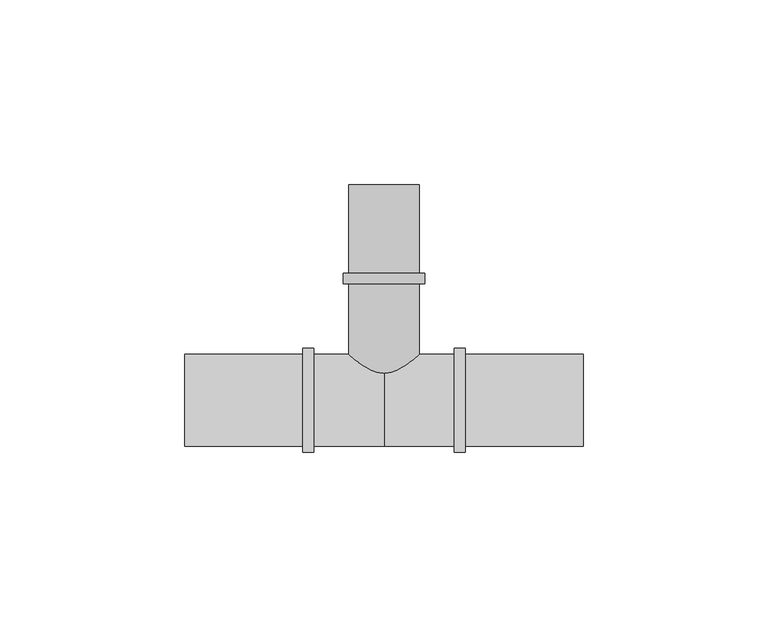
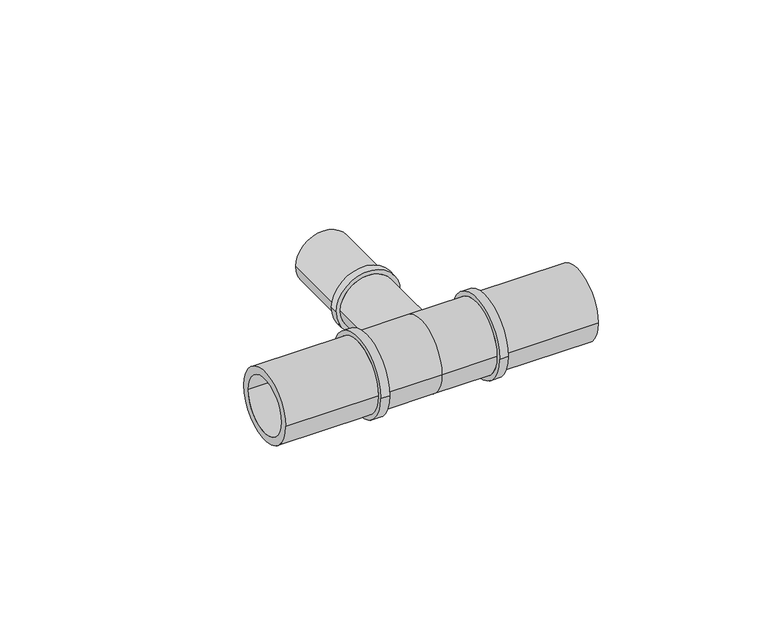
"""IFC4 building model written with IfcOpenShell, lengths in millimetres: pipe fitting geometry, FASTLOC_T-piece_LX : FSL T-Piece LX PL."""

from ifc_helpers import new_model, si_unit, frame, origin, place, context, project, spatial, polyline, circle_curve, source, transform, mapped, element, save
from ifc_brep_helpers import plane_surface, cylinder_surface, revolved_surface, advanced_brep


def pipe_fitting_4480fcef(model_context):
    return source(origin(), model_context, "Body", "AdvancedBrep", [
        advanced_brep(
        [(7.35, 58.4, 0.0), (-7.35, 58.4, 0.0), (-7.35, 0.0, 0.0), (7.35, 0.0, 0.0), (9.6, 0.0, 0.0), (-9.6, 0.0, 0.0), (-9.6, 31.6, 0.0), (9.6, 31.6, 0.0), (11.1, 31.6, 0.0), (-11.1, 31.6, 0.0), (-11.1, 34.4, 0.0), (11.1, 34.4, 0.0), (9.6, 34.4, 0.0), (-9.6, 34.4, 0.0), (-9.6, 58.4, 0.0), (9.6, 58.4, 0.0)],
        [
            (0, 1, circle_curve(frame((0.0, 58.4, 0.0), z_axis=(0.0, 1.0, 0.0), x_axis=(-1.0, 0.0, 0.0)), 7.35)),
            (1, 2),
            (2, 3, circle_curve(frame((0.0, 0.0, 0.0), z_axis=(0.0, -1.0, 0.0), x_axis=(-1.0, 0.0, 0.0)), 7.35)),
            (3, 0),
            (4, 5, circle_curve(frame((0.0, 0.0, 0.0), z_axis=(0.0, 1.0, 0.0), x_axis=(-1.0, 0.0, 0.0)), 9.6)),
            (5, 6),
            (6, 7, circle_curve(frame((0.0, 31.6, 0.0), z_axis=(0.0, -1.0, 0.0), x_axis=(-1.0, 0.0, 0.0)), 9.6)),
            (7, 4),
            (8, 9, circle_curve(frame((0.0, 31.6, 0.0), z_axis=(0.0, 1.0, 0.0), x_axis=(-1.0, 0.0, 0.0)), 11.1)),
            (9, 10),
            (10, 11, circle_curve(frame((0.0, 34.4, 0.0), z_axis=(0.0, -1.0, 0.0), x_axis=(-1.0, 0.0, 0.0)), 11.1)),
            (11, 8),
            (12, 13, circle_curve(frame((0.0, 34.4, 0.0), z_axis=(0.0, 1.0, 0.0), x_axis=(-1.0, 0.0, 0.0)), 9.6)),
            (13, 14),
            (14, 15, circle_curve(frame((0.0, 58.4, 0.0), z_axis=(0.0, -1.0, 0.0), x_axis=(-1.0, 0.0, 0.0)), 9.6)),
            (15, 12),
            (1, 0, circle_curve(frame((0.0, 58.4, 0.0), z_axis=(0.0, 1.0, 0.0), x_axis=(1.0, 0.0, 0.0)), 7.35)),
            (3, 2, circle_curve(frame((0.0, 0.0, 0.0), z_axis=(0.0, -1.0, 0.0), x_axis=(1.0, 0.0, 0.0)), 7.35)),
            (4, 5, circle_curve(frame((0.0, 0.0, 0.0), z_axis=(0.0, -1.0, 0.0), x_axis=(1.0, 0.0, 0.0)), 9.6)),
            (7, 6, circle_curve(frame((0.0, 31.6, 0.0), z_axis=(0.0, -1.0, 0.0), x_axis=(1.0, 0.0, 0.0)), 9.6)),
            (8, 9, circle_curve(frame((0.0, 31.6, 0.0), z_axis=(0.0, -1.0, 0.0), x_axis=(1.0, 0.0, 0.0)), 11.1)),
            (11, 10, circle_curve(frame((0.0, 34.4, 0.0), z_axis=(0.0, -1.0, 0.0), x_axis=(1.0, 0.0, 0.0)), 11.1)),
            (12, 13, circle_curve(frame((0.0, 34.4, 0.0), z_axis=(0.0, -1.0, 0.0), x_axis=(1.0, 0.0, 0.0)), 9.6)),
            (15, 14, circle_curve(frame((0.0, 58.4, 0.0), z_axis=(0.0, -1.0, 0.0), x_axis=(1.0, 0.0, 0.0)), 9.6)),
        ],
        [
            revolved_surface(polyline([(-7.35, 0.0, 0.0), (-7.35, 58.4, 0.0)]), (0.0, 0.0, 0.0), (0.0, -1.0, 0.0)),
            cylinder_surface(frame((0.0, 0.0, 0.0), z_axis=(0.0, -1.0, 0.0), x_axis=(-1.0, 0.0, 0.0)), 9.6),
            cylinder_surface(frame((0.0, 0.0, 0.0), z_axis=(0.0, -1.0, 0.0), x_axis=(-1.0, 0.0, 0.0)), 11.1),
            revolved_surface(polyline([(7.35, 0.0, 0.0), (7.35, 58.4, 0.0)]), (0.0, 0.0, 0.0), (0.0, -1.0, 0.0)),
            plane_surface(frame((0.0, 0.0, 0.0), z_axis=(0.0, -1.0, 0.0), x_axis=(1.0, 0.0, 0.0))),
            cylinder_surface(frame((0.0, 0.0, 0.0), z_axis=(0.0, -1.0, 0.0), x_axis=(1.0, 0.0, 0.0)), 9.6),
            plane_surface(frame((0.0, 31.6, 0.0), z_axis=(0.0, -1.0, 0.0), x_axis=(1.0, 0.0, 0.0))),
            cylinder_surface(frame((0.0, 0.0, 0.0), z_axis=(0.0, -1.0, 0.0), x_axis=(1.0, 0.0, 0.0)), 11.1),
            plane_surface(frame((0.0, 34.4, 0.0), z_axis=(0.0, 1.0, 0.0), x_axis=(1.0, 0.0, 0.0))),
            plane_surface(frame((0.0, 58.4, 0.0), z_axis=(0.0, 1.0, 0.0), x_axis=(1.0, 0.0, 0.0))),
        ],
        [
            (0, [[1, 2, 3, 4]]),
            (1, [[5, 6, 7, 8]]),
            (2, [[9, 10, 11, 12]]),
            (1, [[13, 14, 15, 16]]),
            (3, [[17, -4, 18, -2]]),
            (4, [[19, -5], [-18, -3]]),
            (5, [[-19, -8, 20, -6]]),
            (6, [[21, -9], [-20, -7]]),
            (7, [[-21, -12, 22, -10]]),
            (8, [[-22, -11], [23, -13]]),
            (5, [[-23, -16, 24, -14]]),
            (9, [[-24, -15], [-17, -1]]),
        ],
    ),
        advanced_brep(
        [(0.0, 12.5, 0.0), (0.0, -12.5, 0.0), (-19.0, -12.5, 0.0), (-19.0, 12.5, 0.0), (19.0, 12.5, 0.0), (19.0, -12.5, 0.0), (22.0, 14.1, 0.0), (22.0, -14.1, 0.0), (19.0, -14.1, 0.0), (19.0, 14.1, 0.0), (54.0, 12.5, 0.0), (54.0, -12.5, 0.0), (22.0, -12.5, 0.0), (22.0, 12.5, 0.0), (-22.0, 12.5, 0.0), (-22.0, -12.5, 0.0), (-54.0, -12.5, 0.0), (-54.0, 12.5, 0.0), (-19.0, 14.1, 0.0), (-19.0, -14.1, 0.0), (-22.0, -14.1, 0.0), (-22.0, 14.1, 0.0), (54.0, -9.85, 0.0), (54.0, 9.85, 0.0), (-54.0, 9.85, 0.0), (-54.0, -9.85, 0.0), (0.0, 9.85, 0.0), (0.0, -9.85, 0.0)],
        [
            (0, 1, circle_curve(frame((0.0, 0.0, 0.0), z_axis=(-1.0, 0.0, 0.0), x_axis=(0.0, -1.0, 0.0)), 12.5)),
            (1, 2),
            (2, 3, circle_curve(frame((-19.0, 0.0, 0.0), z_axis=(1.0, 0.0, 0.0), x_axis=(0.0, -1.0, 0.0)), 12.5)),
            (3, 0),
            (4, 5, circle_curve(frame((19.0, 0.0, 0.0), z_axis=(-1.0, 0.0, 0.0), x_axis=(0.0, -1.0, 0.0)), 12.5)),
            (5, 1),
            (0, 4),
            (6, 7, circle_curve(frame((22.0, 0.0, 0.0), z_axis=(-1.0, 0.0, 0.0), x_axis=(0.0, -1.0, 0.0)), 14.1)),
            (7, 8),
            (8, 9, circle_curve(frame((19.0, 0.0, 0.0), z_axis=(1.0, 0.0, 0.0), x_axis=(0.0, -1.0, 0.0)), 14.1)),
            (9, 6),
            (10, 11, circle_curve(frame((54.0, 0.0, 0.0), z_axis=(-1.0, 0.0, 0.0), x_axis=(0.0, -1.0, 0.0)), 12.5)),
            (11, 12),
            (12, 13, circle_curve(frame((22.0, 0.0, 0.0), z_axis=(1.0, 0.0, 0.0), x_axis=(0.0, -1.0, 0.0)), 12.5)),
            (13, 10),
            (14, 15, circle_curve(frame((-22.0, 0.0, 0.0), z_axis=(-1.0, 0.0, 0.0), x_axis=(0.0, -1.0, 0.0)), 12.5)),
            (15, 16),
            (16, 17, circle_curve(frame((-54.0, 0.0, 0.0), z_axis=(1.0, 0.0, 0.0), x_axis=(0.0, -1.0, 0.0)), 12.5)),
            (17, 14),
            (18, 19, circle_curve(frame((-19.0, 0.0, 0.0), z_axis=(-1.0, 0.0, 0.0), x_axis=(0.0, -1.0, 0.0)), 14.1)),
            (19, 20),
            (20, 21, circle_curve(frame((-22.0, 0.0, 0.0), z_axis=(1.0, 0.0, 0.0), x_axis=(0.0, -1.0, 0.0)), 14.1)),
            (21, 18),
            (18, 19, circle_curve(frame((-19.0, 0.0, 0.0), z_axis=(1.0, 0.0, 0.0), x_axis=(0.0, 1.0, 0.0)), 14.1)),
            (2, 3, circle_curve(frame((-19.0, 0.0, 0.0), z_axis=(-1.0, 0.0, 0.0), x_axis=(0.0, 1.0, 0.0)), 12.5)),
            (1, 0, circle_curve(frame((0.0, 0.0, 0.0), z_axis=(-1.0, 0.0, 0.0), x_axis=(0.0, 1.0, 0.0)), 12.5)),
            (5, 4, circle_curve(frame((19.0, 0.0, 0.0), z_axis=(-1.0, 0.0, 0.0), x_axis=(0.0, 1.0, 0.0)), 12.5)),
            (8, 9, circle_curve(frame((19.0, 0.0, 0.0), z_axis=(-1.0, 0.0, 0.0), x_axis=(0.0, 1.0, 0.0)), 14.1)),
            (7, 6, circle_curve(frame((22.0, 0.0, 0.0), z_axis=(-1.0, 0.0, 0.0), x_axis=(0.0, 1.0, 0.0)), 14.1)),
            (12, 13, circle_curve(frame((22.0, 0.0, 0.0), z_axis=(-1.0, 0.0, 0.0), x_axis=(0.0, 1.0, 0.0)), 12.5)),
            (11, 10, circle_curve(frame((54.0, 0.0, 0.0), z_axis=(-1.0, 0.0, 0.0), x_axis=(0.0, 1.0, 0.0)), 12.5)),
            (22, 23, circle_curve(frame((54.0, 0.0, 0.0), z_axis=(-1.0, 0.0, 0.0), x_axis=(0.0, 1.0, 0.0)), 9.85)),
            (23, 22, circle_curve(frame((54.0, 0.0, 0.0), z_axis=(-1.0, 0.0, 0.0), x_axis=(0.0, -1.0, 0.0)), 9.85)),
            (16, 17, circle_curve(frame((-54.0, 0.0, 0.0), z_axis=(-1.0, 0.0, 0.0), x_axis=(0.0, 1.0, 0.0)), 12.5)),
            (24, 25, circle_curve(frame((-54.0, 0.0, 0.0), z_axis=(1.0, 0.0, 0.0), x_axis=(0.0, 1.0, 0.0)), 9.85)),
            (25, 24, circle_curve(frame((-54.0, 0.0, 0.0), z_axis=(1.0, 0.0, 0.0), x_axis=(0.0, -1.0, 0.0)), 9.85)),
            (15, 14, circle_curve(frame((-22.0, 0.0, 0.0), z_axis=(-1.0, 0.0, 0.0), x_axis=(0.0, 1.0, 0.0)), 12.5)),
            (20, 21, circle_curve(frame((-22.0, 0.0, 0.0), z_axis=(-1.0, 0.0, 0.0), x_axis=(0.0, 1.0, 0.0)), 14.1)),
            (26, 27, circle_curve(frame((0.0, 0.0, 0.0), z_axis=(-1.0, 0.0, 0.0), x_axis=(0.0, -1.0, 0.0)), 9.85)),
            (27, 22),
            (23, 26),
            (25, 27),
            (26, 24),
            (27, 26, circle_curve(frame((0.0, 0.0, 0.0), z_axis=(-1.0, 0.0, 0.0), x_axis=(0.0, 1.0, 0.0)), 9.85)),
        ],
        [
            cylinder_surface(frame((0.0, 0.0, 0.0), z_axis=(1.0, 0.0, 0.0), x_axis=(0.0, -1.0, 0.0)), 12.5),
            cylinder_surface(frame((0.0, 0.0, 0.0), z_axis=(1.0, 0.0, 0.0), x_axis=(0.0, -1.0, 0.0)), 14.1),
            plane_surface(frame((-19.0, 0.0, 0.0), z_axis=(1.0, 0.0, 0.0), x_axis=(0.0, 1.0, 0.0))),
            cylinder_surface(frame((0.0, 0.0, 0.0), z_axis=(1.0, 0.0, 0.0), x_axis=(0.0, 1.0, 0.0)), 12.5),
            plane_surface(frame((19.0, 0.0, 0.0), z_axis=(-1.0, 0.0, 0.0), x_axis=(0.0, 1.0, 0.0))),
            cylinder_surface(frame((0.0, 0.0, 0.0), z_axis=(1.0, 0.0, 0.0), x_axis=(0.0, 1.0, 0.0)), 14.1),
            plane_surface(frame((22.0, 0.0, 0.0), z_axis=(1.0, 0.0, 0.0), x_axis=(0.0, 1.0, 0.0))),
            plane_surface(frame((54.0, 0.0, 0.0), z_axis=(1.0, 0.0, 0.0), x_axis=(0.0, 1.0, 0.0))),
            plane_surface(frame((-54.0, 0.0, 0.0), z_axis=(-1.0, 0.0, 0.0), x_axis=(0.0, 1.0, 0.0))),
            plane_surface(frame((-22.0, 0.0, 0.0), z_axis=(-1.0, 0.0, 0.0), x_axis=(0.0, 1.0, 0.0))),
            revolved_surface(polyline([(54.0, -9.85, 0.0), (0.0, -9.85, 0.0)]), (0.0, 0.0, 0.0), (1.0, 0.0, 0.0)),
            revolved_surface(polyline([(0.0, -9.85, 0.0), (-54.0, -9.85, 0.0)]), (0.0, 0.0, 0.0), (1.0, 0.0, 0.0)),
            revolved_surface(polyline([(54.0, 9.85, 0.0), (0.0, 9.85, 0.0)]), (0.0, 0.0, 0.0), (1.0, 0.0, 0.0)),
            revolved_surface(polyline([(0.0, 9.85, 0.0), (-54.0, 9.85, 0.0)]), (0.0, 0.0, 0.0), (1.0, 0.0, 0.0)),
        ],
        [
            (0, [[1, 2, 3, 4]]),
            (0, [[5, 6, -1, 7]]),
            (1, [[8, 9, 10, 11]]),
            (0, [[12, 13, 14, 15]]),
            (0, [[16, 17, 18, 19]]),
            (1, [[20, 21, 22, 23]]),
            (2, [[24, -20], [25, -3]]),
            (3, [[26, -4, -25, -2]]),
            (3, [[27, -7, -26, -6]]),
            (4, [[28, -10], [-27, -5]]),
            (5, [[29, -11, -28, -9]]),
            (6, [[-29, -8], [30, -14]]),
            (3, [[31, -15, -30, -13]]),
            (7, [[-31, -12], [32, 33]]),
            (8, [[34, -18], [35, 36]]),
            (3, [[37, -19, -34, -17]]),
            (9, [[38, -22], [-37, -16]]),
            (5, [[-24, -23, -38, -21]]),
            (10, [[39, 40, -33, 41]]),
            (11, [[-36, 42, -39, 43]]),
            (12, [[44, -41, -32, -40]]),
            (13, [[-35, -43, -44, -42]]),
        ],
    ),
    ])


if __name__ == "__main__":
    model = new_model("IFC4")
    model_context = context("Model", 3, world=origin())
    ifc_project = project(units=[si_unit("LENGTHUNIT", "METRE", prefix="MILLI")], contexts=[model_context])
    site = spatial("IfcSite", under=ifc_project)
    building = spatial("IfcBuilding", under=site)
    placement = place(None, origin())
    pipe_fitting_shape = pipe_fitting_4480fcef(model_context)
    element("IfcPipeFitting", 1, ObjectType="FASTLOC_T-piece_LX : FSL T-Piece LX PL", at=placement, inside=building, context=model_context, shape_type="MappedRepresentation", body=[
        mapped(pipe_fitting_shape, transform((0.0, 0.0, 0.0), x_axis=(1.0, 0.0, 0.0), y_axis=(0.0, 1.0, 0.0), z_axis=(0.0, 0.0, 1.0))),
    ])
    save(model, "model.ifc")
